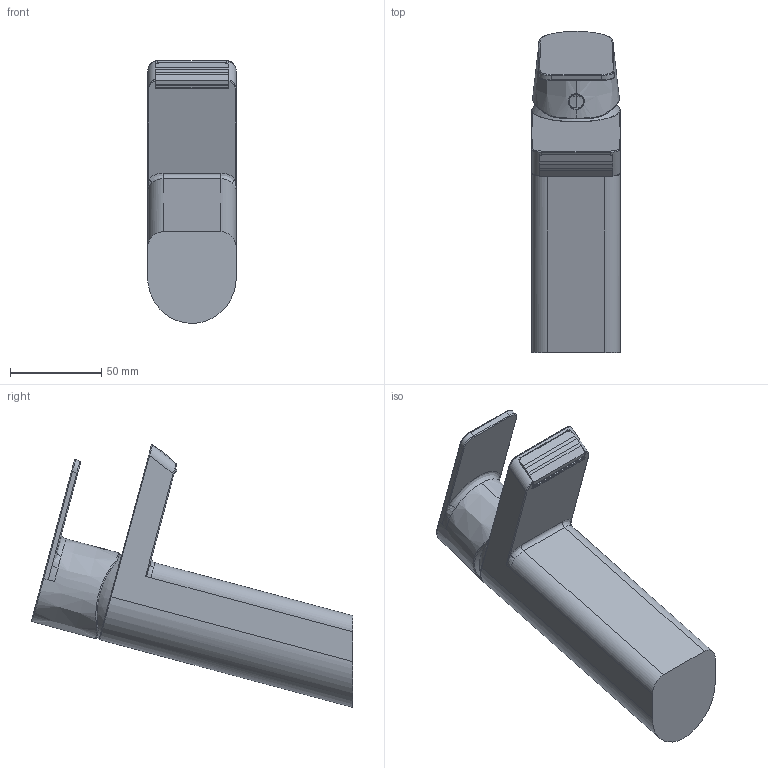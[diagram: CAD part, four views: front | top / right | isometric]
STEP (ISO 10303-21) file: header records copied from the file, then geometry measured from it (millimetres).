
FILE_DESCRIPTION (( 'STEP AP203' ), '1' );
FILE_NAME ('4810F(2021)+57082273(2021).STEP', '2020-12-18T05:44:58', ( '' ), ( '' ), 'SwSTEP 2.0', 'SolidWorks 2016', '' );
FILE_SCHEMA (( 'CONFIG_CONTROL_DESIGN' ));
Length unit declared in the file: millimetre
Products named in the file (1): 4810F(2021)+57082273(2021)
Bounding box: 48.5 x 175.75 x 143.77 mm (x, y, z)
Volume: 401410.5 mm3; surface area: 45764.6 mm2
Topology: 1 solids, 1 shells, 170 faces, 459 edges, 283 vertices
Faces by surface type: bspline 69, plane 50, cylinder 40, torus 4, cone 4, sphere 3
Entity records: 12305 total; most frequent: CARTESIAN_POINT 8487, ORIENTED_EDGE 910, DIRECTION 603, EDGE_CURVE 455, VERTEX_POINT 282, LINE 203, VECTOR 203, AXIS2_PLACEMENT_3D 200
